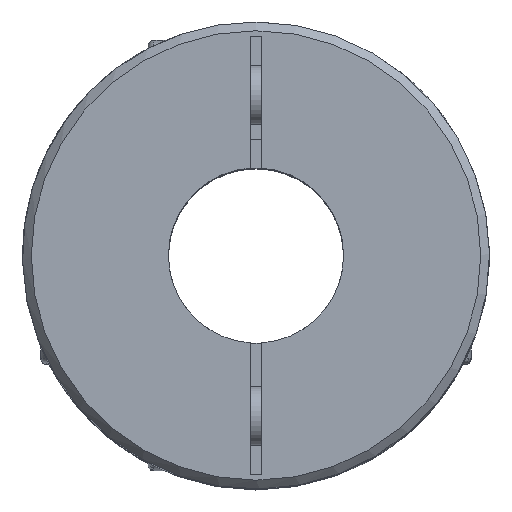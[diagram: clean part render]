
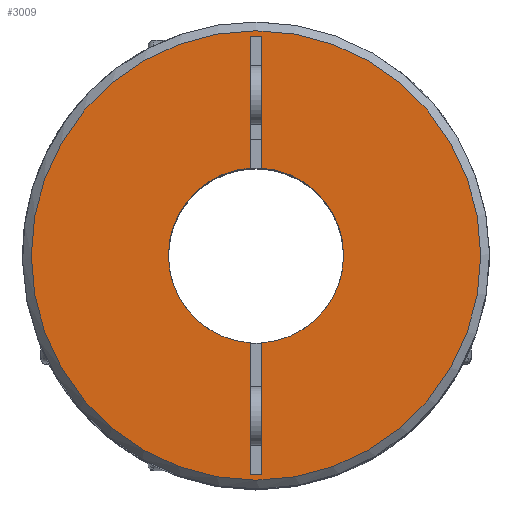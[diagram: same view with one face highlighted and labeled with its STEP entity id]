
A CAD part, top view. The second image highlights one B-rep face of the part: STEP entity #3009.
In plain terms, the highlighted planar face has unit normal (0, 0, 1).
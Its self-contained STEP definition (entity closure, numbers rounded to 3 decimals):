
#113 = LINE ( 'NONE', #751, #738 ) ;
#202 = EDGE_CURVE ( 'NONE', #3982, #939, #2538, .T. ) ;
#225 = DIRECTION ( 'NONE',  ( 0., 0., 1. ) ) ;
#277 = EDGE_CURVE ( 'NONE', #2370, #3949, #113, .T. ) ;
#283 = PLANE ( 'NONE',  #2220 ) ;
#287 = CARTESIAN_POINT ( 'NONE',  ( -0.4, -15., 20.5 ) ) ;
#464 = CIRCLE ( 'NONE', #2320, 15.4 ) ;
#492 = ORIENTED_EDGE ( 'NONE', *, *, #2239, .T. ) ;
#649 = VERTEX_POINT ( 'NONE', #3566 ) ;
#657 = LINE ( 'NONE', #990, #4332 ) ;
#736 = EDGE_CURVE ( 'NONE', #3380, #4391, #2248, .T. ) ;
#738 = VECTOR ( 'NONE', #2413, 1000. ) ;
#751 = CARTESIAN_POINT ( 'NONE',  ( -0.4, 15., 20.5 ) ) ;
#785 = VERTEX_POINT ( 'NONE', #2150 ) ;
#861 = CIRCLE ( 'NONE', #1442, 6. ) ;
#885 = DIRECTION ( 'NONE',  ( 1., 0., 0. ) ) ;
#904 = FACE_OUTER_BOUND ( 'NONE', #4039, .T. ) ;
#927 = DIRECTION ( 'NONE',  ( 0., 1., 0. ) ) ;
#939 = VERTEX_POINT ( 'NONE', #1906 ) ;
#945 = DIRECTION ( 'NONE',  ( 0., -1., 0. ) ) ;
#990 = CARTESIAN_POINT ( 'NONE',  ( -0.4, 6., 20.5 ) ) ;
#1063 = LINE ( 'NONE', #2121, #3780 ) ;
#1134 = CARTESIAN_POINT ( 'NONE',  ( 0.4, -5.987, 20.5 ) ) ;
#1180 = EDGE_CURVE ( 'NONE', #785, #785, #464, .T. ) ;
#1189 = CARTESIAN_POINT ( 'NONE',  ( 0.4, 5.987, 20.5 ) ) ;
#1204 = ORIENTED_EDGE ( 'NONE', *, *, #736, .F. ) ;
#1259 = ORIENTED_EDGE ( 'NONE', *, *, #4064, .T. ) ;
#1323 = DIRECTION ( 'NONE',  ( 0., 0., 1. ) ) ;
#1442 = AXIS2_PLACEMENT_3D ( 'NONE', #3295, #1323, #945 ) ;
#1571 = CARTESIAN_POINT ( 'NONE',  ( -0.4, -15., 20.5 ) ) ;
#1606 = VECTOR ( 'NONE', #2932, 1000. ) ;
#1645 = CARTESIAN_POINT ( 'NONE',  ( 0., 6., 20.5 ) ) ;
#1658 = EDGE_LOOP ( 'NONE', ( #3924, #3705, #492, #4105, #1856, #1259, #2626, #1204 ) ) ;
#1684 = ORIENTED_EDGE ( 'NONE', *, *, #1180, .T. ) ;
#1776 = VERTEX_POINT ( 'NONE', #3794 ) ;
#1826 = DIRECTION ( 'NONE',  ( 0., 0., 1. ) ) ;
#1856 = ORIENTED_EDGE ( 'NONE', *, *, #277, .F. ) ;
#1906 = CARTESIAN_POINT ( 'NONE',  ( 0.4, -15., 20.5 ) ) ;
#2121 = CARTESIAN_POINT ( 'NONE',  ( 0.4, 15., 20.5 ) ) ;
#2150 = CARTESIAN_POINT ( 'NONE',  ( 0., 15.4, 20.5 ) ) ;
#2220 = AXIS2_PLACEMENT_3D ( 'NONE', #1645, #3320, #2992 ) ;
#2239 = EDGE_CURVE ( 'NONE', #3982, #649, #657, .T. ) ;
#2248 = CIRCLE ( 'NONE', #3393, 6. ) ;
#2320 = AXIS2_PLACEMENT_3D ( 'NONE', #3616, #225, #927 ) ;
#2370 = VERTEX_POINT ( 'NONE', #3192 ) ;
#2413 = DIRECTION ( 'NONE',  ( 0., -1., 0. ) ) ;
#2520 = CARTESIAN_POINT ( 'NONE',  ( 0.4, 6., 20.5 ) ) ;
#2538 = LINE ( 'NONE', #1571, #1606 ) ;
#2626 = ORIENTED_EDGE ( 'NONE', *, *, #2878, .T. ) ;
#2660 = CARTESIAN_POINT ( 'NONE',  ( -0.4, 5.987, 20.5 ) ) ;
#2758 = DIRECTION ( 'NONE',  ( 0., -1., 0. ) ) ;
#2878 = EDGE_CURVE ( 'NONE', #1776, #4391, #1063, .T. ) ;
#2932 = DIRECTION ( 'NONE',  ( 1., 0., 0. ) ) ;
#2992 = DIRECTION ( 'NONE',  ( 0., 1., 0. ) ) ;
#3009 = ADVANCED_FACE ( 'NONE', ( #904, #4054 ), #283, .F. ) ;
#3069 = EDGE_CURVE ( 'NONE', #3949, #649, #861, .T. ) ;
#3163 = LINE ( 'NONE', #2520, #3235 ) ;
#3192 = CARTESIAN_POINT ( 'NONE',  ( -0.4, 15., 20.5 ) ) ;
#3235 = VECTOR ( 'NONE', #4266, 1000. ) ;
#3295 = CARTESIAN_POINT ( 'NONE',  ( 0., 0., 20.5 ) ) ;
#3320 = DIRECTION ( 'NONE',  ( 0., 0., -1. ) ) ;
#3380 = VERTEX_POINT ( 'NONE', #1134 ) ;
#3393 = AXIS2_PLACEMENT_3D ( 'NONE', #4109, #1826, #2758 ) ;
#3566 = CARTESIAN_POINT ( 'NONE',  ( -0.4, -5.987, 20.5 ) ) ;
#3616 = CARTESIAN_POINT ( 'NONE',  ( 0., 0., 20.5 ) ) ;
#3705 = ORIENTED_EDGE ( 'NONE', *, *, #202, .F. ) ;
#3780 = VECTOR ( 'NONE', #4145, 1000. ) ;
#3794 = CARTESIAN_POINT ( 'NONE',  ( 0.4, 15., 20.5 ) ) ;
#3910 = CARTESIAN_POINT ( 'NONE',  ( -0.4, 15., 20.5 ) ) ;
#3915 = VECTOR ( 'NONE', #885, 1000. ) ;
#3924 = ORIENTED_EDGE ( 'NONE', *, *, #4302, .F. ) ;
#3949 = VERTEX_POINT ( 'NONE', #2660 ) ;
#3982 = VERTEX_POINT ( 'NONE', #287 ) ;
#4039 = EDGE_LOOP ( 'NONE', ( #1684 ) ) ;
#4054 = FACE_BOUND ( 'NONE', #1658, .T. ) ;
#4064 = EDGE_CURVE ( 'NONE', #2370, #1776, #4372, .T. ) ;
#4105 = ORIENTED_EDGE ( 'NONE', *, *, #3069, .F. ) ;
#4109 = CARTESIAN_POINT ( 'NONE',  ( 0., 0., 20.5 ) ) ;
#4145 = DIRECTION ( 'NONE',  ( 0., -1., 0. ) ) ;
#4266 = DIRECTION ( 'NONE',  ( 0., 1., 0. ) ) ;
#4302 = EDGE_CURVE ( 'NONE', #939, #3380, #3163, .T. ) ;
#4332 = VECTOR ( 'NONE', #4350, 1000. ) ;
#4350 = DIRECTION ( 'NONE',  ( 0., 1., 0. ) ) ;
#4372 = LINE ( 'NONE', #3910, #3915 ) ;
#4391 = VERTEX_POINT ( 'NONE', #1189 ) ;
